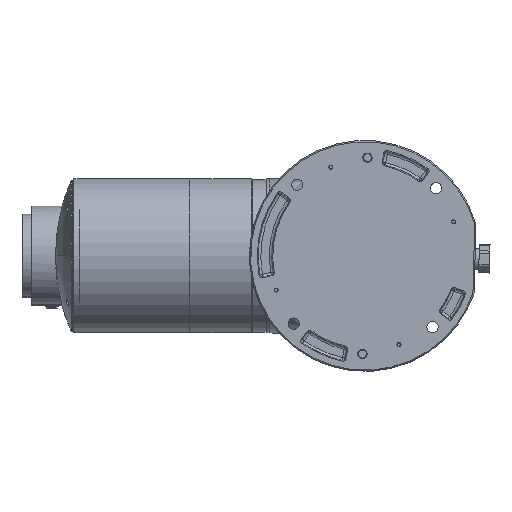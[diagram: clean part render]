
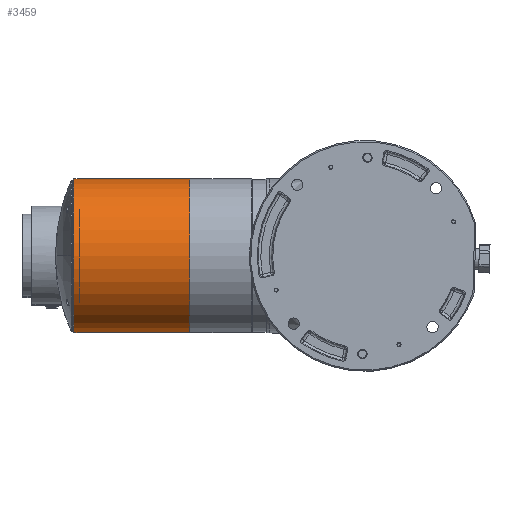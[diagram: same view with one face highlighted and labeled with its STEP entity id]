
A CAD part, front view. The second image highlights one B-rep face of the part: STEP entity #3459.
In plain terms, the highlighted cylindrical face has radius 58 mm (diameter 116 mm), a partial arc.
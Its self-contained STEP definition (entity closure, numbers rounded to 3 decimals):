
#2558=B_SPLINE_CURVE_WITH_KNOTS('',3,(#33466,#33467,#33468,#33469,#33470,
#33471,#33472,#33473,#33474,#33475,#33476,#33477),.UNSPECIFIED.,.F.,.F.,
(4,1,1,2,2,1,1,4),(0.,0.25,0.312,0.344,
0.359,0.375,0.5,1.),.UNSPECIFIED.);
#2560=B_SPLINE_CURVE_WITH_KNOTS('',3,(#34150,#34151,#34152,#34153),
 .UNSPECIFIED.,.F.,.F.,(4,4),(0.,1.),.UNSPECIFIED.);
#3459=ADVANCED_FACE('',(#4542),#3908,.T.);
#3908=CYLINDRICAL_SURFACE('',#15892,58.);
#4542=FACE_OUTER_BOUND('',#5431,.T.);
#5431=EDGE_LOOP('',(#9354,#9355,#9356,#9357,#9358,#9359));
#6127=LINE('',#33404,#6699);
#6130=LINE('',#33448,#6702);
#6699=VECTOR('',#18836,1.);
#6702=VECTOR('',#18843,1.);
#9354=ORIENTED_EDGE('',*,*,#13204,.T.);
#9355=ORIENTED_EDGE('',*,*,#13219,.T.);
#9356=ORIENTED_EDGE('',*,*,#13211,.F.);
#9357=ORIENTED_EDGE('',*,*,#13222,.F.);
#9358=ORIENTED_EDGE('',*,*,#13218,.T.);
#9359=ORIENTED_EDGE('',*,*,#13220,.T.);
#11498=VERTEX_POINT('',#29731);
#11500=VERTEX_POINT('',#29785);
#11543=VERTEX_POINT('',#33397);
#11544=VERTEX_POINT('',#33401);
#11545=VERTEX_POINT('',#33405);
#11549=VERTEX_POINT('',#33447);
#13204=EDGE_CURVE('',#11545,#11544,#6127,.T.);
#13211=EDGE_CURVE('',#11549,#11543,#6130,.T.);
#13218=EDGE_CURVE('',#11498,#11500,#14558,.T.);
#13219=EDGE_CURVE('',#11544,#11543,#14559,.T.);
#13220=EDGE_CURVE('',#11500,#11545,#2558,.T.);
#13222=EDGE_CURVE('',#11498,#11549,#2560,.T.);
#14558=CIRCLE('',#15888,58.);
#14559=CIRCLE('',#15890,58.);
#15888=AXIS2_PLACEMENT_3D('',#33462,#18870,#18871);
#15890=AXIS2_PLACEMENT_3D('',#33464,#18874,#18875);
#15892=AXIS2_PLACEMENT_3D('',#34154,#18878,#18879);
#18836=DIRECTION('',(-1.,0.,0.));
#18843=DIRECTION('',(-1.,0.,0.));
#18870=DIRECTION('',(-1.,0.,0.));
#18871=DIRECTION('',(0.,1.,0.));
#18874=DIRECTION('',(1.,0.,0.));
#18875=DIRECTION('',(0.,0.,-1.));
#18878=DIRECTION('',(-1.,0.,0.));
#18879=DIRECTION('',(0.,0.,1.));
#29731=CARTESIAN_POINT('',(-132.949,-3.026,-56.83));
#29785=CARTESIAN_POINT('',(-132.949,-3.026,59.17));
#33397=CARTESIAN_POINT('',(-220.15,-3.026,-56.83));
#33401=CARTESIAN_POINT('',(-220.15,-3.026,59.17));
#33404=CARTESIAN_POINT('',(-220.95,-3.026,59.17));
#33405=CARTESIAN_POINT('',(-178.95,-3.026,59.17));
#33447=CARTESIAN_POINT('',(-178.95,-3.026,-56.83));
#33448=CARTESIAN_POINT('',(-220.95,-3.026,-56.83));
#33462=CARTESIAN_POINT('',(-132.95,-3.026,1.17));
#33464=CARTESIAN_POINT('',(-220.15,-3.026,1.17));
#33466=CARTESIAN_POINT('',(-132.949,-3.026,59.17));
#33467=CARTESIAN_POINT('',(-136.783,-3.026,59.17));
#33468=CARTESIAN_POINT('',(-141.574,-3.026,59.17));
#33469=CARTESIAN_POINT('',(-146.845,-3.026,59.17));
#33470=CARTESIAN_POINT('',(-148.283,-3.026,59.17));
#33471=CARTESIAN_POINT('',(-149.002,-3.026,59.17));
#33472=CARTESIAN_POINT('',(-149.089,-3.026,59.17));
#33473=CARTESIAN_POINT('',(-149.38,-3.026,59.17));
#33474=CARTESIAN_POINT('',(-150.713,-3.026,59.17));
#33475=CARTESIAN_POINT('',(-157.648,-3.026,59.17));
#33476=CARTESIAN_POINT('',(-168.153,-3.026,59.17));
#33477=CARTESIAN_POINT('',(-178.95,-3.026,59.17));
#34150=CARTESIAN_POINT('',(-132.949,-3.026,-56.831));
#34151=CARTESIAN_POINT('',(-148.283,-3.026,-56.83));
#34152=CARTESIAN_POINT('',(-163.633,-3.041,-56.816));
#34153=CARTESIAN_POINT('',(-178.95,-3.026,-56.83));
#34154=CARTESIAN_POINT('',(-105.95,-3.026,1.17));
